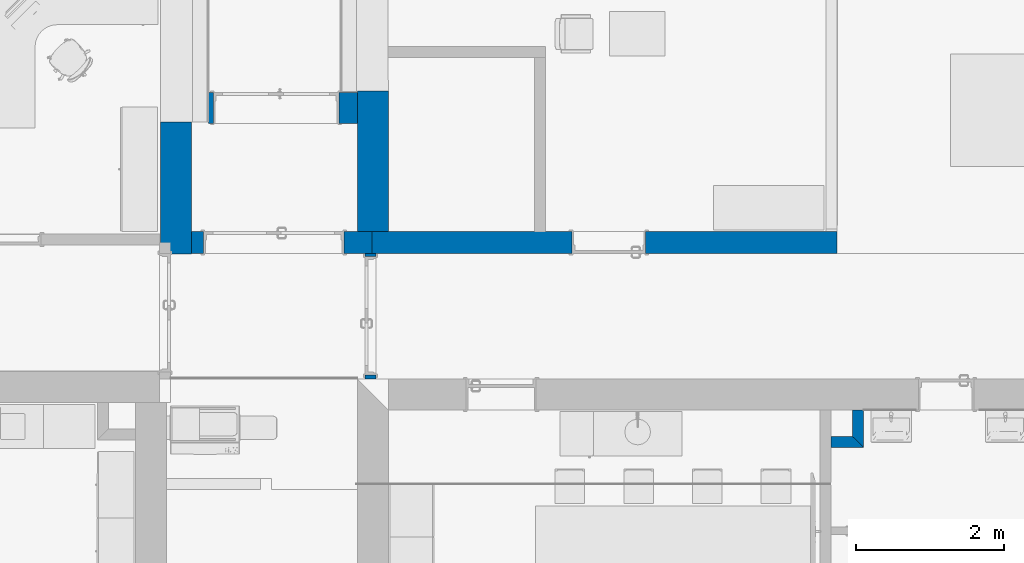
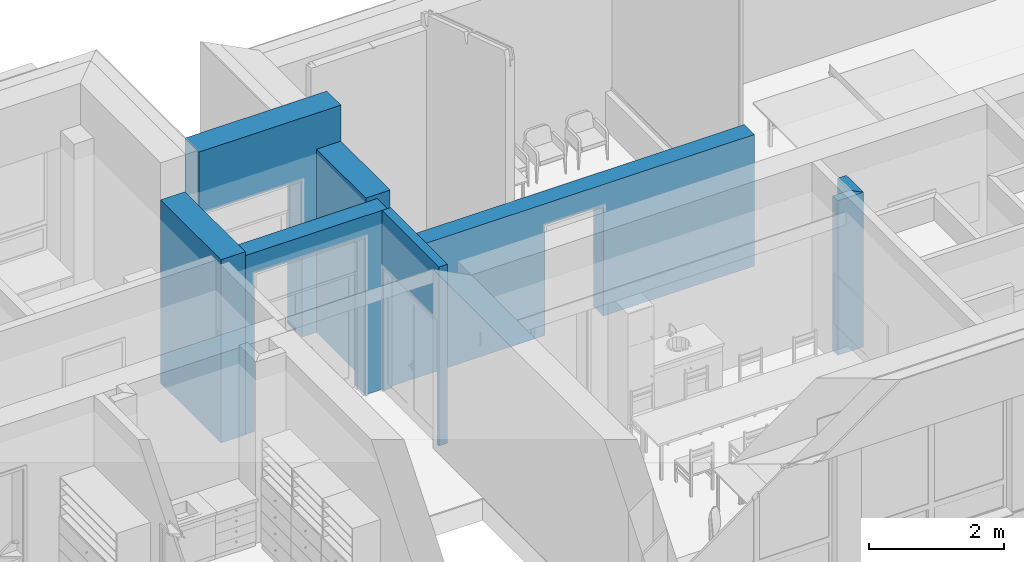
# One storey, part 25 of 194: 8 walls, 4 openings.
"""IFC2X3 building model written with IfcOpenShell, lengths in millimetres."""

from ifc_helpers import new_model, entity, si_unit, converted_unit, derived_unit, money_unit, direction, frame, origin_with_axes, origin_2d_with_axis, place, context, subcontext, project, spatial, polyline, rectangle, outline, extrude, material, layer, layer_set, layer_usage, type_object, element, save


model = new_model("IFC2X3")

# Units and contexts
model_context = context("Model", 3, precision=1e-05, world=origin_with_axes(), true_north=direction((0.0, 1.0)))
body_context = subcontext(model_context, "Body", "Model", "MODEL_VIEW")
ifc_project = project(units=[si_unit("LENGTHUNIT", "METRE", prefix="MILLI"), si_unit("AREAUNIT", "SQUARE_METRE"), si_unit("VOLUMEUNIT", "CUBIC_METRE"), converted_unit("PLANEANGLEUNIT", "DEGREE", entity("IfcPlaneAngleMeasure", 0.0174532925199), si_unit("PLANEANGLEUNIT", "RADIAN"), dimensions=[0, 0, 0, 0, 0, 0, 0]), si_unit("SOLIDANGLEUNIT", "STERADIAN"), money_unit("EUR"), converted_unit("TIMEUNIT", "Year", entity("IfcTimeMeasure", 31556926.0), si_unit("TIMEUNIT", "SECOND"), dimensions=[0, 0, 1, 0, 0, 0, 0]), si_unit("MASSUNIT", "GRAM", prefix="KILO"), si_unit("THERMODYNAMICTEMPERATUREUNIT", "DEGREE_CELSIUS"), si_unit("LUMINOUSINTENSITYUNIT", "LUMEN"), si_unit("ENERGYUNIT", "JOULE", prefix="MEGA"), derived_unit("THERMALCONDUCTANCEUNIT", [(si_unit("POWERUNIT", "WATT"), 1), (si_unit("LENGTHUNIT", "METRE"), -1), (si_unit("THERMODYNAMICTEMPERATUREUNIT", "KELVIN"), -1)]), derived_unit("SPECIFICHEATCAPACITYUNIT", [(si_unit("ENERGYUNIT", "JOULE"), 1), (si_unit("MASSUNIT", "GRAM", prefix="KILO"), -1), (si_unit("THERMODYNAMICTEMPERATUREUNIT", "KELVIN"), -1)]), derived_unit("MASSDENSITYUNIT", [(si_unit("MASSUNIT", "GRAM", prefix="KILO"), 1), (si_unit("VOLUMEUNIT", "CUBIC_METRE"), -1)])], contexts=[model_context])

# Site, building, storey
site_placement = place(None, origin_with_axes())
site = spatial("IfcSite", under=ifc_project, at=site_placement, Name="Site", CompositionType="ELEMENT")
building_placement = place(site_placement, origin_with_axes())
building = spatial("IfcBuilding", under=site, at=building_placement, Name="Building", CompositionType="ELEMENT")
storey_placement = place(building_placement, frame((0.0, 0.0, 3000.0), z_axis=(0.0, 0.0, 1.0), x_axis=(1.0, 0.0, 0.0)))
storey = spatial("IfcBuildingStorey", under=building, at=storey_placement, Name="2 KORRUS", CompositionType="ELEMENT", Elevation=3000.0)

# Wall, opening
ifc_material_1 = material(Name="Kivi -Ol.Olev Konstruktsioon")
ifc_layer_1 = layer(ifc_material_1, 300.0, ventilated="UNKNOWN")
ifc_layer_set_1 = layer_set([ifc_layer_1], Name="ol.olev ss 300")
ifc_layer_usage_1 = layer_usage(ifc_layer_set_1, "AXIS2", "NEGATIVE", 300.0)
wall_type_1 = type_object("IfcWallType", Name="SW - 022", PredefinedType="NOTDEFINED")
wall_1_placement = place(storey_placement, frame((63935.1951905, 42700.4940854, 0.0), z_axis=(0.0, 0.0, 1.0), x_axis=(1.0, 0.0, 0.0)))
wall_1 = element("IfcWallStandardCase", 1, at=wall_1_placement, inside=storey, type_object=wall_type_1, material=ifc_layer_usage_1, Name="ol.olev ss 300", context=body_context, shape_type="SweptSolid", body=[
    extrude(outline(polyline([(0.0, 0.0), (6299.53291605, 0.0), (6299.53291605, 300.0), (0.0, 300.0), (0.0, 0.0)])), origin_with_axes(), (0.0, 0.0, 1.0), 2387.45029227),
])
opening_1_placement = place(wall_1_placement, frame((3209.10835658, 0.0, 0.0), z_axis=(0.0, 0.0, 1.0), x_axis=(1.0, 0.0, 0.0)))
element("IfcOpeningElement", 2, at=opening_1_placement, cuts=wall_1, Name="Siseuks * Door 22", context=body_context, shape_type="SweptSolid", body=[
    extrude(rectangle(XDim=1000.0, YDim=2000.0, at=origin_2d_with_axis()), frame((0.0, 300.0, 1000.0), z_axis=(0.0, -1.0, 0.0), x_axis=(-1.0, 0.0, 0.0)), (0.0, 0.0, 1.0), 900.0),
    extrude(rectangle(XDim=1074.0, YDim=2037.0, at=origin_2d_with_axis()), frame((0.0, 300.0, 1018.5), z_axis=(0.0, -1.0, 0.0), x_axis=(-1.0, 0.0, 0.0)), (0.0, 0.0, -1.0), 300.0),
    extrude(rectangle(XDim=1074.0, YDim=2037.0, at=origin_2d_with_axis()), frame((0.0, 0.0, 1018.5), z_axis=(0.0, 1.0, 0.0), x_axis=(-1.0, 0.0, 0.0)), (0.0, 0.0, -1.0), 300.0),
])

ifc_layer_usage_2 = layer_usage(ifc_layer_set_1, "AXIS2", "NEGATIVE", 300.0)
wall_2_placement = place(storey_placement, frame((61208.1427585, 42700.4940854, 0.0), z_axis=(0.0, 0.0, 1.0), x_axis=(1.0, 0.0, 0.0)))
wall_2 = element("IfcWallStandardCase", 3, at=wall_2_placement, inside=storey, type_object=wall_type_1, material=ifc_layer_usage_2, Name="ol.olev ss 300", context=body_context, shape_type="SweptSolid", body=[
    extrude(outline(polyline([(0.0, 0.0), (2727.05243204, 0.0), (2727.05243204, 300.0), (0.0, 300.0), (0.0, 0.0)])), origin_with_axes(), (0.0, 0.0, 1.0), 3250.0),
])
opening_2_placement = place(wall_2_placement, frame((1398.42891344, 0.0, 0.0), z_axis=(0.0, 0.0, 1.0), x_axis=(1.0, 0.0, 0.0)))
element("IfcOpeningElement", 4, at=opening_2_placement, cuts=wall_2, Name="Siseuks * Double Door with Transom 22", context=body_context, shape_type="SweptSolid", body=[
    extrude(rectangle(XDim=1900.0, YDim=2870.0, at=origin_2d_with_axis()), frame((0.0, -300.0, 1435.0), z_axis=(0.0, 1.0, 0.0), x_axis=(1.0, 0.0, 0.0)), (0.0, 0.0, 1.0), 900.0),
    extrude(rectangle(XDim=1974.0, YDim=2907.0, at=origin_2d_with_axis()), frame((0.0, 0.0, 1453.5), z_axis=(0.0, 1.0, 0.0), x_axis=(1.0, 0.0, 0.0)), (0.0, 0.0, -1.0), 300.0),
    extrude(rectangle(XDim=1974.0, YDim=2907.0, at=origin_2d_with_axis()), frame((0.0, 300.0, 1453.5), z_axis=(0.0, -1.0, 0.0), x_axis=(1.0, 0.0, 0.0)), (0.0, 0.0, -1.0), 300.0),
])

ifc_layer_2 = layer(ifc_material_1, 150.0, ventilated="UNKNOWN")
ifc_layer_set_2 = layer_set([ifc_layer_2], Name="ol.olev ss 150")
ifc_layer_usage_3 = layer_usage(ifc_layer_set_2, "AXIS2", "NEGATIVE", 150.0)
wall_3_placement = place(storey_placement, frame((63842.0047089, 42700.4940854, 0.0), z_axis=(0.0, 0.0, 1.0), x_axis=(-0.000789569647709, -0.99999968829, 0.0)))
wall_3 = element("IfcWallStandardCase", 5, at=wall_3_placement, inside=storey, type_object=wall_type_1, material=ifc_layer_usage_3, Name="ol.olev ss 150", context=body_context, shape_type="SweptSolid", body=[
    extrude(outline(polyline([(0.0, 0.0), (1697.42968643, 0.0), (1697.31125095, 150.0), (-0.118435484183, 150.0), (0.0, 0.0)])), origin_with_axes(), (0.0, 0.0, 1.0), 3250.0),
])
opening_3_placement = place(wall_3_placement, frame((840.789853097, 0.0, 0.0), z_axis=(0.0, 0.0, 1.0), x_axis=(1.0, 0.0, 0.0)))
element("IfcOpeningElement", 6, at=opening_3_placement, cuts=wall_3, Name="Siseuks * Double Door 22", context=body_context, shape_type="SweptSolid", body=[
    extrude(rectangle(XDim=1600.0, YDim=2240.0, at=origin_2d_with_axis()), frame((-9.09494701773e-10, 150.0, 1120.0), z_axis=(0.0, 1.0, 0.0), x_axis=(1.0, 0.0, 0.0)), (0.0, 0.0, -1.0), 450.0),
    extrude(rectangle(XDim=1674.0, YDim=2277.0, at=origin_2d_with_axis()), frame((-9.09494701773e-10, 150.0, 1138.5), z_axis=(0.0, 1.0, 0.0), x_axis=(1.0, 0.0, 0.0)), (0.0, 0.0, 1.0), 150.0),
    extrude(rectangle(XDim=1674.0, YDim=2277.0, at=origin_2d_with_axis()), frame((0.0, 0.0, 1138.5), z_axis=(0.0, -1.0, 0.0), x_axis=(1.0, 0.0, 0.0)), (0.0, 0.0, 1.0), 150.0),
])

# Wall
ifc_layer_3 = layer(ifc_material_1, 420.0, ventilated="UNKNOWN")
ifc_layer_set_3 = layer_set([ifc_layer_3], Name="ol.olev ss 420")
ifc_layer_usage_4 = layer_usage(ifc_layer_set_3, "AXIS2", "NEGATIVE", 0.0)
wall_4_placement = place(storey_placement, frame((64157.3527847, 44900.6170149, 0.0), z_axis=(0.0, 0.0, 1.0), x_axis=(0.0, -1.0, 0.0)))
element("IfcWallStandardCase", 7, at=wall_4_placement, inside=storey, type_object=wall_type_1, material=ifc_layer_usage_4, Name="ol.olev ss 420", context=body_context, shape_type="SweptSolid", body=[
    extrude(outline(polyline([(0.0, -420.0), (1900.12292948, -420.0), (1900.12292948, 0.0), (0.0, 0.0), (0.0, -420.0)])), origin_with_axes(), (0.0, 0.0, 1.0), 3326.90213909),
])

# Wall, opening
ifc_layer_usage_5 = layer_usage(ifc_layer_set_3, "AXIS2", "NEGATIVE", 0.0)
wall_type_2 = type_object("IfcWallType", Name="SW - 024", PredefinedType="NOTDEFINED")
wall_5_placement = place(storey_placement, frame((61502.1698434, 44886.3084757, 0.0), z_axis=(0.0, 0.0, 1.0), x_axis=(1.0, 0.0, 0.0)))
wall_5 = element("IfcWallStandardCase", 8, at=wall_5_placement, inside=storey, type_object=wall_type_2, material=ifc_layer_usage_5, Name="ol.olev ss 420", context=body_context, shape_type="SweptSolid", body=[
    extrude(outline(polyline([(220.0, -420.0), (2657.48395657, -420.0), (2657.48395657, 0.0), (220.0, 0.0), (220.0, -420.0)])), origin_with_axes(), (0.0, 0.0, 1.0), 3980.0),
])
opening_4_placement = place(wall_5_placement, frame((1133.7583088, 0.0, 0.0), z_axis=(0.0, 0.0, 1.0), x_axis=(1.0, 0.0, 0.0)))
element("IfcOpeningElement", 9, at=opening_4_placement, cuts=wall_5, Name="Välisuks * Double Door with Transom 22", context=body_context, shape_type="SweptSolid", body=[
    extrude(rectangle(XDim=1700.0, YDim=2850.0, at=origin_2d_with_axis()), frame((0.0, -420.0, 1425.0), z_axis=(0.0, 1.0, 0.0), x_axis=(1.0, 0.0, 0.0)), (0.0, 0.0, 1.0), 1260.0),
    extrude(rectangle(XDim=1774.0, YDim=2887.0, at=origin_2d_with_axis()), frame((0.0, -420.0, 1443.5), z_axis=(0.0, 1.0, 0.0), x_axis=(1.0, 0.0, 0.0)), (0.0, 0.0, -1.0), 420.0),
    extrude(rectangle(XDim=1774.0, YDim=2887.0, at=origin_2d_with_axis()), frame((0.0, 0.0, 1443.5), z_axis=(0.0, -1.0, 0.0), x_axis=(1.0, 0.0, 0.0)), (0.0, 0.0, -1.0), 420.0),
])

# Walls
ifc_layer_usage_6 = layer_usage(ifc_layer_set_3, "AXIS2", "NEGATIVE", 0.0)
wall_type_3 = type_object("IfcWallType", Name="SW - 023", PredefinedType="NOTDEFINED")
wall_6_placement = place(storey_placement, frame((61073.6003566, 42692.6130522, 0.0), z_axis=(0.0, 0.0, 1.0), x_axis=(-0.000797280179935, 0.999999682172, 0.0)))
element("IfcWallStandardCase", 10, at=wall_6_placement, inside=storey, type_object=wall_type_3, material=ifc_layer_usage_6, Name="ol.olev ss 420", context=body_context, shape_type="SweptSolid", body=[
    extrude(outline(polyline([(0.0, -420.0), (1794.24147872, -420.0), (1794.24147872, 0.0), (0.0, 0.0), (0.0, -420.0)])), origin_with_axes(), (0.0, 0.0, 1.0), 3326.90213909),
])
ifc_material_2 = material(Name="Kivi -  Uus Konstruktsioon")
ifc_layer_4 = layer(ifc_material_2, 150.0, ventilated="UNKNOWN")
ifc_layer_set_4 = layer_set([ifc_layer_4], Name="uus ss 150")
ifc_layer_usage_7 = layer_usage(ifc_layer_set_4, "AXIS2", "NEGATIVE", 0.0)
wall_type_4 = type_object("IfcWallType", Name="SS-1*", PredefinedType="NOTDEFINED")
wall_7_placement = place(storey_placement, frame((70153.1775052, 40225.2216138, 0.0), z_axis=(0.0, 0.0, 1.0), x_axis=(0.999999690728, 0.000786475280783, 0.0)))
element("IfcWallStandardCase", 11, at=wall_7_placement, inside=storey, type_object=wall_type_4, material=ifc_layer_usage_7, Name="sahti sein", context=body_context, shape_type="SweptSolid", body=[
    extrude(outline(polyline([(1.70530256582e-09, -150.0), (440.24802642, -150.0), (290.365951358, 0.0), (0.0, 0.0), (1.70530256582e-09, -150.0)])), origin_with_axes(), (0.0, 0.0, 1.0), 2805.76346453),
])
ifc_layer_usage_8 = layer_usage(ifc_layer_set_4, "AXIS2", "NEGATIVE", 0.0)
wall_8_placement = place(storey_placement, frame((70443.5433668, 40225.4499795, 0.0), z_axis=(0.0, 0.0, 1.0), x_axis=(0.0, 1.0, 0.0)))
element("IfcWallStandardCase", 12, at=wall_8_placement, inside=storey, type_object=wall_type_4, material=ifc_layer_usage_8, Name="sahti sein", context=body_context, shape_type="SweptSolid", body=[
    extrude(outline(polyline([(-149.882075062, -150.0), (357.614948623, -150.0), (357.614948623, 0.0), (0.0, 0.0), (-149.882075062, -150.0)])), origin_with_axes(), (0.0, 0.0, 1.0), 2805.76346453),
])

save(model, "model.ifc")
